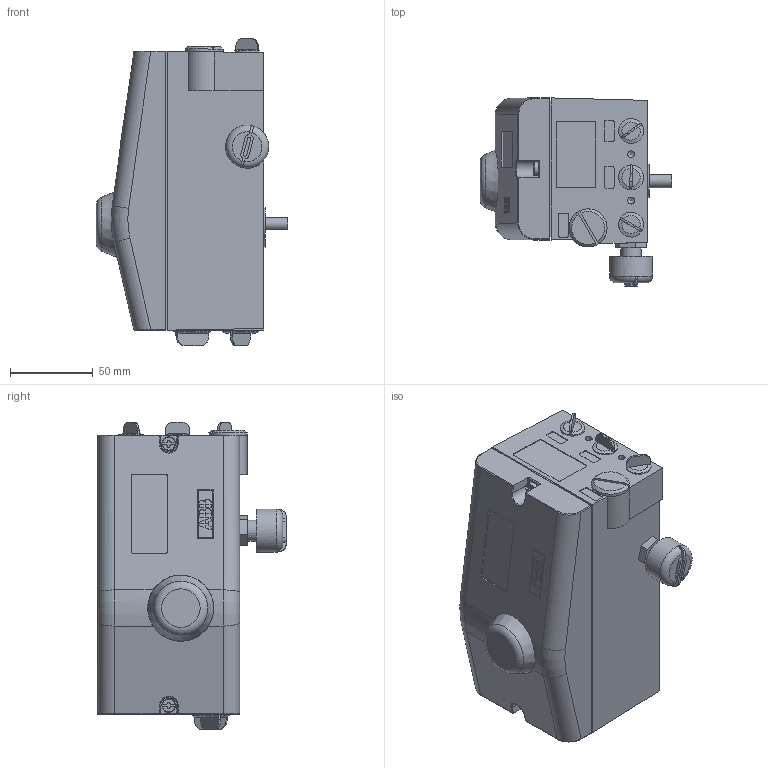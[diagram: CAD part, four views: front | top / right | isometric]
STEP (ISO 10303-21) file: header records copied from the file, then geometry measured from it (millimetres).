
FILE_DESCRIPTION((''),'2;1');
FILE_NAME('C:\Users\CASOMAT\Desktop\Inventor Master Project\Projects\Positioners\TZIDC\TZIDC-100.stp','2011-11-09T13:36:37',('CASOMAT'),(''),'Autodesk Inventor 2011','Autodesk Inventor 2011','');
FILE_SCHEMA(('AUTOMOTIVE_DESIGN { 1 0 10303 214 1 1 1 1 }'));
Length unit declared in the file: millimetre
Products named in the file (11): TZIDC; Base; Cover; Shaft; Plug - Large; Filter Cover; Cover Screw; Indicator Window; Display Window; Vent; Plug - Small
Assembly tree (14 placements, depth 2):
  TZIDC
    Base
    Cover
    Shaft
    Plug - Large  x2
    Filter Cover
    Cover Screw  x2
    Indicator Window
    Display Window
    Vent
    Plug - Small  x3
Bounding box: 115.5 x 113.5 x 185.8 mm (x, y, z)
Volume: 490863.6 mm3; surface area: 176722.4 mm2
Topology: 14 solids, 14 shells, 633 faces, 1577 edges, 1009 vertices
Faces by surface type: plane 356, cylinder 163, cone 50, bspline 44, torus 20
Full cylindrical faces by diameter (mm): 4.134 x6, 4.75 x2, 4.917 x4, 5 x2, 5.5 x4, 6.647 x4, 8 x1, 8.1 x1, 8.25 x2, 9 x1, 10 x3, 10.719 x3, 11.835 x2, 12.5 x1, 14 x1, 15 x4, 17.475 x1, 18 x2, 18.917 x1, 20 x1, 22.25 x2, 23 x1, 26 x1, 37.8 x1, 39.8 x1, 40 x1, 45 x1
Entity records: 18022 total; most frequent: CARTESIAN_POINT 4503, DIRECTION 2674, ORIENTED_EDGE 2602, EDGE_CURVE 1301, AXIS2_PLACEMENT_3D 929, VERTEX_POINT 865, VECTOR 816, LINE 816
